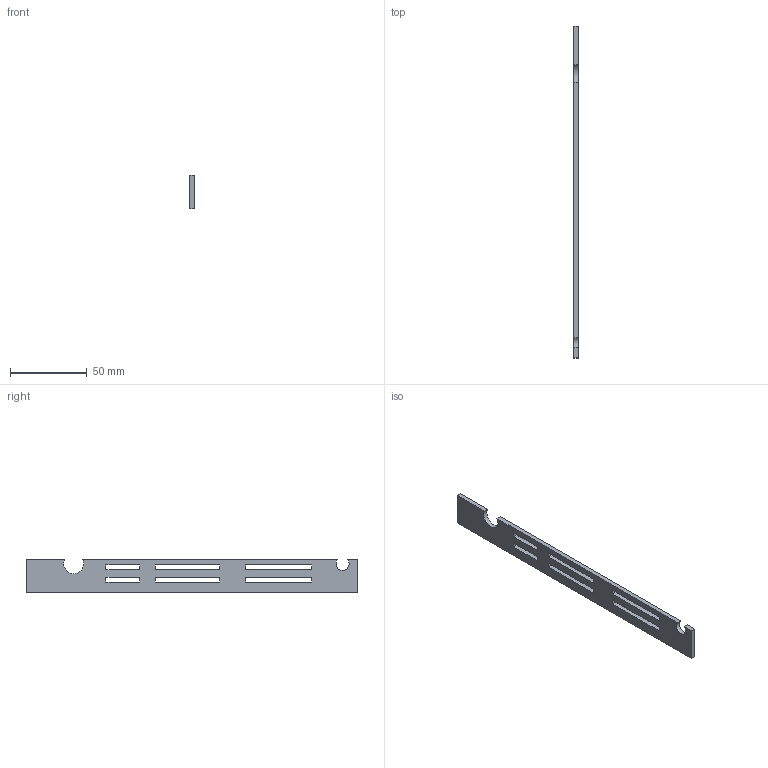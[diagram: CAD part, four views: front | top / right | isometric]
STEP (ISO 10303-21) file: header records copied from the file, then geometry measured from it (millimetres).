
FILE_DESCRIPTION(('FreeCAD Model'),'2;1');
FILE_NAME('Open CASCADE Shape Model','2026-10-12T22:45:25',('FreeCAD'),( 'FreeCAD'),'Open CASCADE STEP processor 7.8','FreeCAD','Unknown');
FILE_SCHEMA(('AUTOMOTIVE_DESIGN { 1 0 10303 214 1 1 1 1 }'));
Length unit declared in the file: millimetre
Products named in the file (1): Open CASCADE STEP translator 7.8 5
Bounding box: 3 x 216 x 22 mm (x, y, z)
Volume: 11735.1 mm3; surface area: 10738 mm2
Topology: 1 solids, 1 shells, 34 faces, 96 edges, 64 vertices
Faces by surface type: plane 32, cylinder 2
Entity records: 1118 total; most frequent: CARTESIAN_POINT 195, ORIENTED_EDGE 192, DIRECTION 170, EDGE_CURVE 96, LINE 92, VECTOR 92, VERTEX_POINT 64, FACE_BOUND 46
